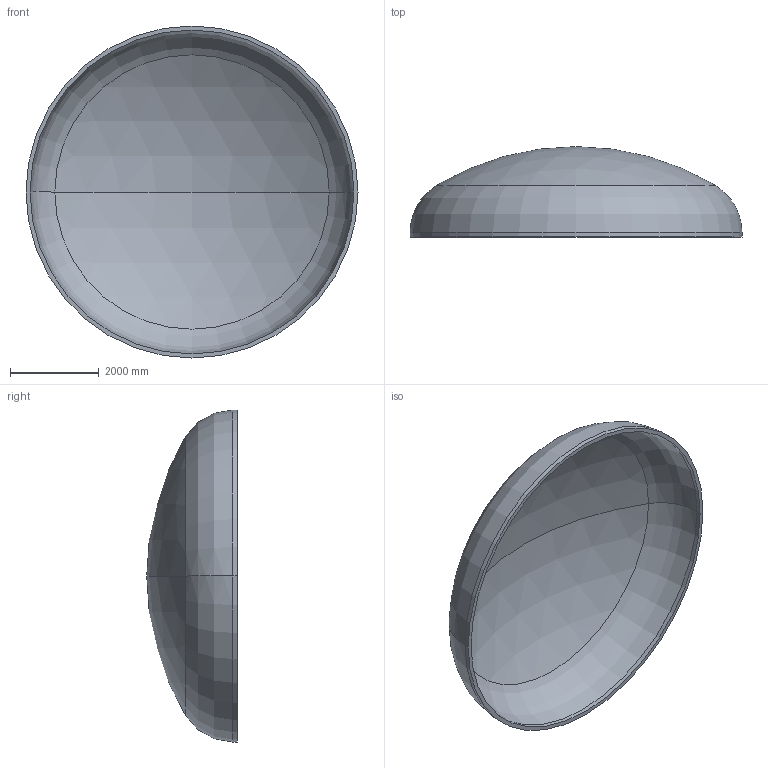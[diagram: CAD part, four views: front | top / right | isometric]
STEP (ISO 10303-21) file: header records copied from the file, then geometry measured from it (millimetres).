
FILE_DESCRIPTION (( 'STEP AP203' ), '1' );
FILE_NAME ('DIN 28013 Korbbogenform_-_Boden DIN 28013 - 7500 x 100 - I - s=92.step', '2016-07-04T10:56:36', ( '' ), ( '' ), 'SwSTEP 2.0', 'SolidWorks 2013', '' );
FILE_SCHEMA (( 'CONFIG_CONTROL_DESIGN' ));
Length unit declared in the file: millimetre
Products named in the file (1): DIN 28013 Korbbogenform_-_Boden DIN 28013 - 7500 x 100 - I - s=92
Bounding box: 7500 x 2043.62 x 7500 mm (x, y, z)
Volume: 5752741014 mm3; surface area: 127218374.6 mm2
Topology: 1 solids, 1 shells, 13 faces, 24 edges, 14 vertices
Faces by surface type: torus 4, cylinder 4, sphere 4, plane 1
Entity records: 407 total; most frequent: DIRECTION 72, CARTESIAN_POINT 52, ORIENTED_EDGE 48, AXIS2_PLACEMENT_3D 34, EDGE_CURVE 24, CIRCLE 20, EDGE_LOOP 14, VERTEX_POINT 14
